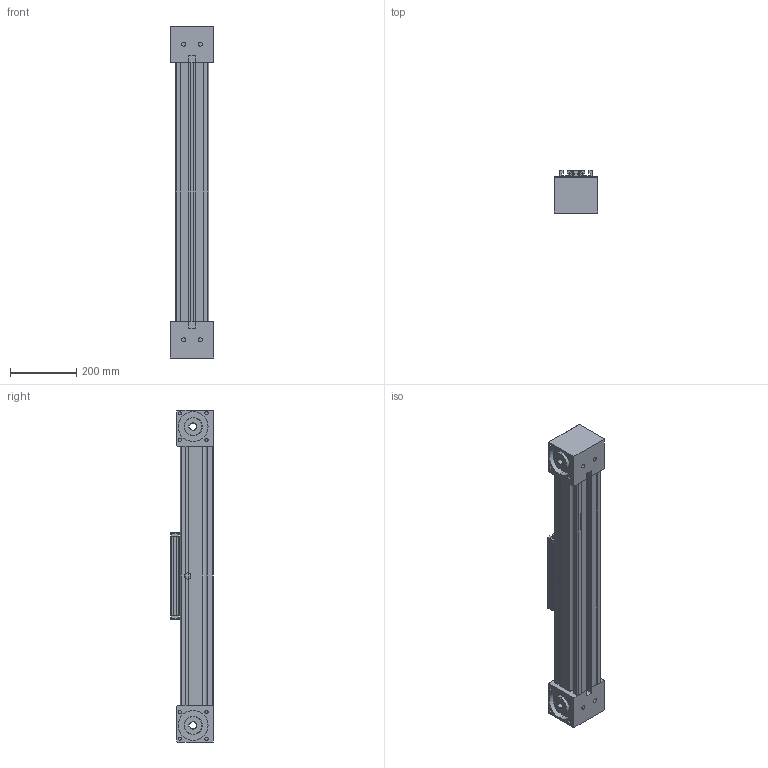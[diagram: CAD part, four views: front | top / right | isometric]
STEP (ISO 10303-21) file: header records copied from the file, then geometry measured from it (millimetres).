
FILE_DESCRIPTION (( 'STEP AP214' ), '1' );
FILE_NAME ('QLZ-100-Konfig.STEP', '2016-01-14T12:08:44', ( 'admin' ), ( '' ), 'SwSTEP 2.0', 'SolidWorks 2015', '' );
FILE_SCHEMA (( 'AUTOMOTIVE_DESIGN' ));
Length unit declared in the file: millimetre
Products named in the file (5): Bahr-QLZ-QLZ-100  1  0 0 0  0 7  1  1490_QLZ Extrusion 100^QLZ100 - Konfig; Führungsschlitten QLZ100 - Konfig^QLZ100 - Konfig_S0; Zahnriemenumlenkung Q_Z100 - Konfig^QLZ100 - Konfig_K links - N rechts; Zahnriemenumlenkung Q_Z100 - Konfig^QLZ100 - Konfig_K rechts - N links; QLZ-100-Konfig
Assembly tree (4 placements, depth 2):
  QLZ-100-Konfig
    Zahnriemenumlenkung Q_Z100 - Konfig^QLZ100 - Konfig_K rechts - N links
    Zahnriemenumlenkung Q_Z100 - Konfig^QLZ100 - Konfig_K links - N rechts
    Führungsschlitten QLZ100 - Konfig^QLZ100 - Konfig_S0
    Bahr-QLZ-QLZ-100  1  0 0 0  0 7  1  1490_QLZ Extrusion 100^QLZ100 - Konfig
Bounding box: 130 x 129 x 1000 mm (x, y, z)
Volume: 10440712.5 mm3; surface area: 745984.3 mm2
Topology: 8 solids, 8 shells, 395 faces, 979 edges, 646 vertices
Faces by surface type: plane 236, cylinder 147, torus 8, cone 4
Entity records: 12036 total; most frequent: DIRECTION 2089, CARTESIAN_POINT 2027, ORIENTED_EDGE 1958, EDGE_CURVE 979, AXIS2_PLACEMENT_3D 708, VECTOR 673, LINE 673, VERTEX_POINT 646
